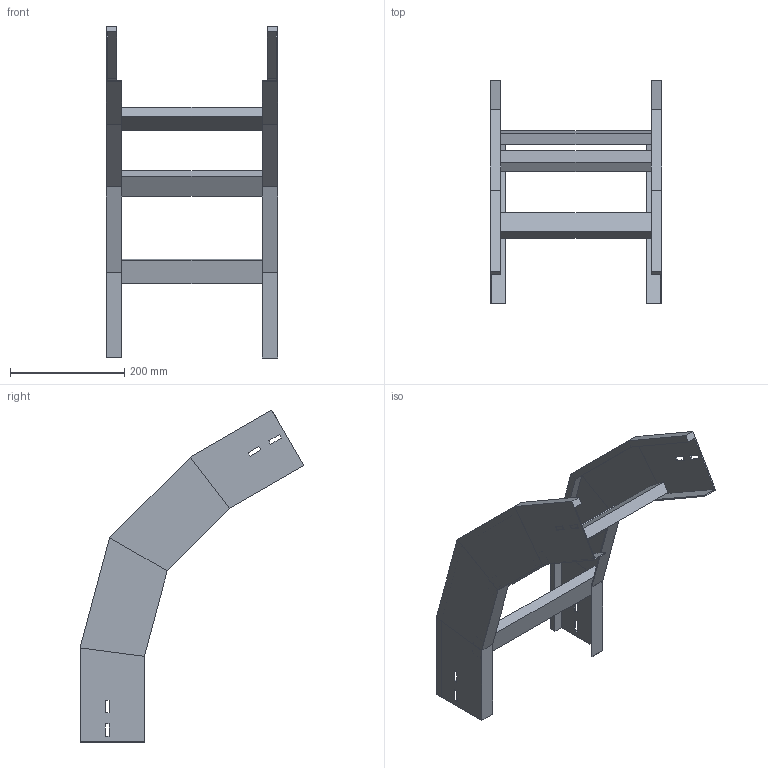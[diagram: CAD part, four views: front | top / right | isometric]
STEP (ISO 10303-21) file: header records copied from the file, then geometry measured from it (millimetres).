
FILE_DESCRIPTION (( 'STEP AP214' ), '1' );
FILE_NAME ('A2_41B3J300.step', '2025-02-21T14:58:16', ( '' ), ( '' ), 'SwSTEP 2.0', 'SolidWorks 2023', '' );
FILE_SCHEMA (( 'AUTOMOTIVE_DESIGN' ));
Length unit declared in the file: millimetre
Products named in the file (3): TRAVERSINO_300; A2_41B3J300; LONGH.DISCESA_60°_H112.5_R300
Assembly tree (5 placements, depth 2):
  A2_41B3J300
    LONGH.DISCESA_60°_H112.5_R300  x2
    TRAVERSINO_300  x3
Bounding box: 300 x 392.12 x 581.75 mm (x, y, z)
Volume: 1357009.3 mm3; surface area: 526781.2 mm2
Topology: 5 solids, 5 shells, 118 faces, 276 edges, 168 vertices
Faces by surface type: plane 118
Entity records: 1672 total; most frequent: CARTESIAN_POINT 276, ORIENTED_EDGE 264, DIRECTION 260, EDGE_CURVE 132, LINE 132, VECTOR 132, VERTEX_POINT 80, EDGE_LOOP 64
